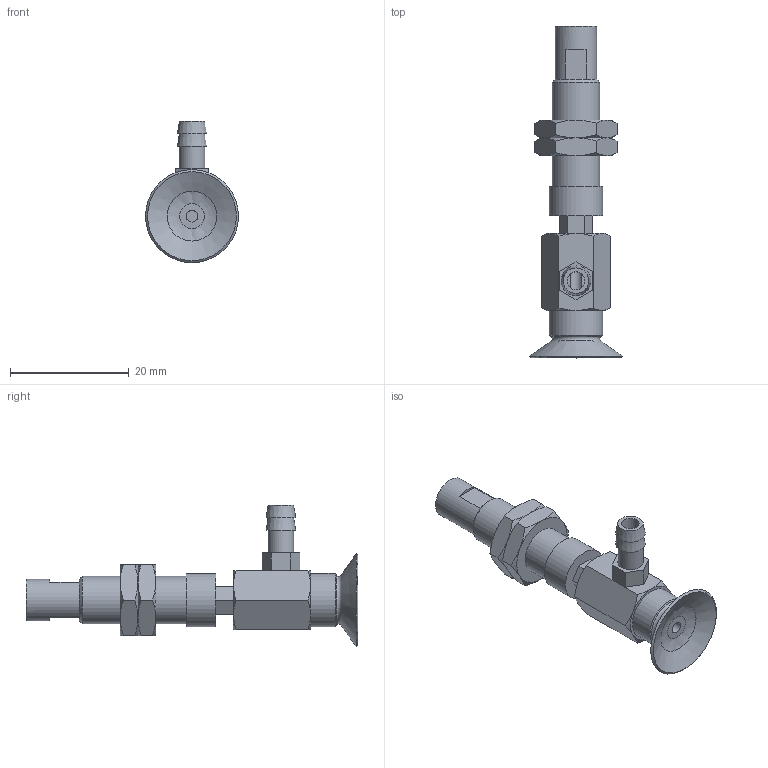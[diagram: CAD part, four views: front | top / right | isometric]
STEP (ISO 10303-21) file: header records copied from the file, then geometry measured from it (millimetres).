
FILE_DESCRIPTION(('STEP AP203'),'1');
FILE_NAME('-T.stp','2025-04-10T07:30:09',(' '),(' '),'Spatial InterOp 3D',' ',' ');
FILE_SCHEMA(('CONFIG_CONTROL_DESIGN'));
Length unit declared in the file: millimetre
Products named in the file (7): BNABPFYH-15A-3-※-T; CONNECTOR-H-15A-3; Nut-15A-3-h; NAPFTH-15A-3-FBODY; NAPFTH-15A-3-MBODY; BPFG-15A-※; T
Assembly tree (7 placements, depth 2):
  BNABPFYH-15A-3-※-T
    CONNECTOR-H-15A-3
    Nut-15A-3-h  x2
    NAPFTH-15A-3-FBODY
    NAPFTH-15A-3-MBODY
    BPFG-15A-※
    T
Bounding box: 15.7 x 56 x 23.85 mm (x, y, z)
Volume: 3674.5 mm3; surface area: 4700.6 mm2
Topology: 7 solids, 7 shells, 157 faces, 336 edges, 206 vertices
Faces by surface type: plane 75, cone 54, cylinder 18, torus 9, bspline 1
Full cylindrical faces by diameter (mm): 2 x2, 3 x1, 4 x2, 4.134 x2, 4.3 x1, 5 x2, 6 x2, 7 x1, 7.188 x2, 8 x1, 9 x2
Entity records: 3949 total; most frequent: CARTESIAN_POINT 925, DIRECTION 556, ORIENTED_EDGE 476, EDGE_CURVE 238, AXIS2_PLACEMENT_3D 231, EDGE_LOOP 200, VERTEX_POINT 170, FACE_OUTER_BOUND 161
